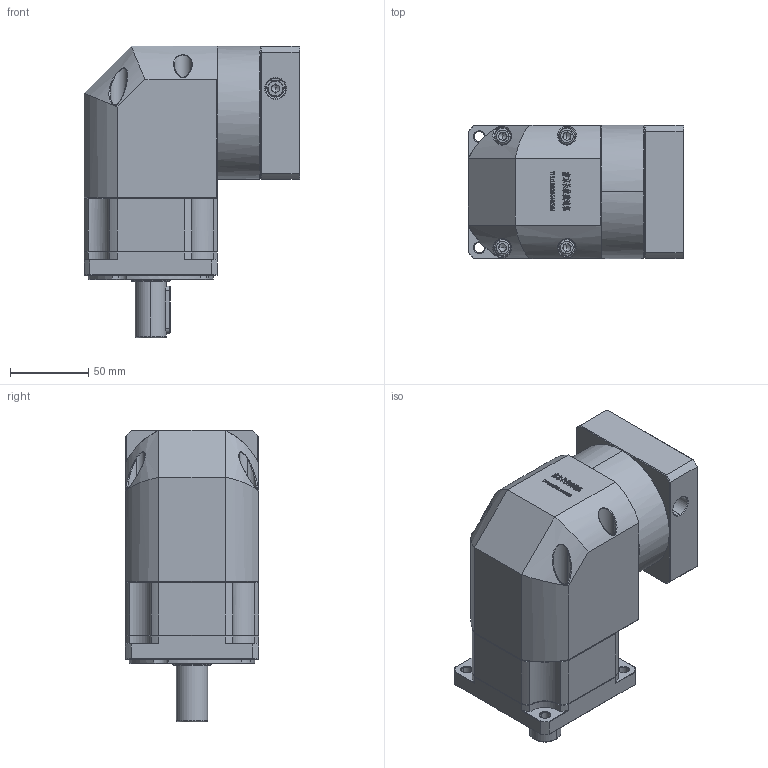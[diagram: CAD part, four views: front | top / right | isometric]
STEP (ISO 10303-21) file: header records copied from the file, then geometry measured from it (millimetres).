
FILE_DESCRIPTION (( 'STEP AP214' ), '1' );
FILE_NAME ('ZBR90-D20-L1-16-80-100-M6.step', '2022-05-07T15:07:14', ( '' ), ( 'Microsoft' ), 'SwSTEP 2.0', 'SolidWorks 2016', '' );
FILE_SCHEMA (( 'AUTOMOTIVE_DESIGN' ));
Length unit declared in the file: millimetre
Products named in the file (1): ZBR90-D20-L1-16-80-100-M6
Bounding box: 137.6 x 85 x 186 mm (x, y, z)
Volume: 1184791.8 mm3; surface area: 130091.3 mm2
Topology: 5 solids, 5 shells, 3008 faces, 7960 edges, 5088 vertices
Faces by surface type: plane 1575, bspline 603, cylinder 449, cone 355, torus 26
Entity records: 163242 total; most frequent: CARTESIAN_POINT 60509, ORIENTED_EDGE 15844, DIRECTION 12093, EDGE_CURVE 7922, VECTOR 5275, LINE 5275, VERTEX_POINT 5088, AXIS2_PLACEMENT_3D 3409
